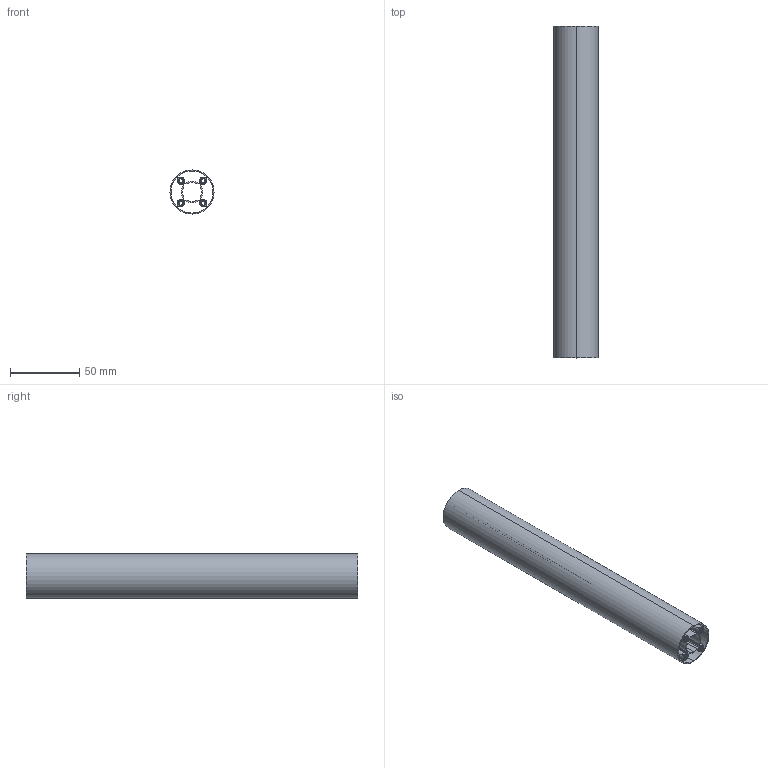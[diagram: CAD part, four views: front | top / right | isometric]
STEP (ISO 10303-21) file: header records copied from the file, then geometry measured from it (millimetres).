
FILE_DESCRIPTION (( 'STEP AP203' ), '1' );
FILE_NAME ('4103-0032-0240.STEP', '2022-09-13T20:43:14', ( '' ), ( '' ), 'SwSTEP 2.0', 'SolidWorks 2016', '' );
FILE_SCHEMA (( 'CONFIG_CONTROL_DESIGN' ));
Length unit declared in the file: millimetre
Products named in the file (1): 4103-0032-0240
Bounding box: 31.95 x 240 x 31.95 mm (x, y, z)
Volume: 40479.6 mm3; surface area: 95866.9 mm2
Topology: 1 solids, 1 shells, 781 faces, 2333 edges, 1554 vertices
Faces by surface type: cylinder 711, plane 34, cone 20, bspline 16
Entity records: 50002 total; most frequent: CARTESIAN_POINT 32717, ORIENTED_EDGE 4666, DIRECTION 2715, EDGE_CURVE 2333, VERTEX_POINT 1554, AXIS2_PLACEMENT_3D 960, EDGE_LOOP 799, VECTOR 795
